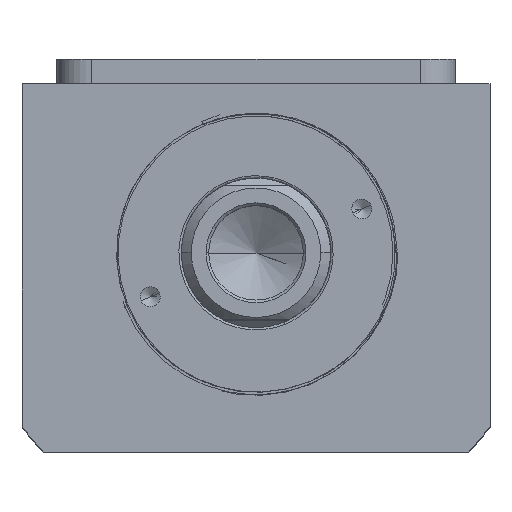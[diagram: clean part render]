
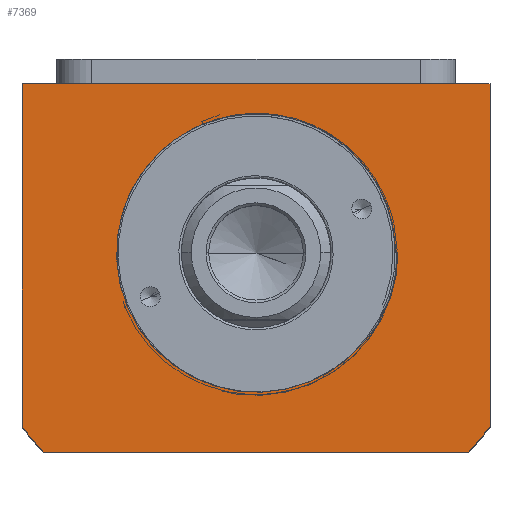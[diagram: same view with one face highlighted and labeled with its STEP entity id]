
A CAD part, top view. The second image highlights one B-rep face of the part: STEP entity #7369.
In plain terms, the highlighted planar face has unit normal (0, 0, 1).
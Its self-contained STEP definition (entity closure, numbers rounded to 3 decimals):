
#55 = DIRECTION ( 'NONE',  ( -1., 0., 0. ) ) ;
#139 = CARTESIAN_POINT ( 'NONE',  ( 28.449, -1.419, 55. ) ) ;
#247 = CARTESIAN_POINT ( 'NONE',  ( 11.542, -25.544, 55. ) ) ;
#412 = CARTESIAN_POINT ( 'NONE',  ( 47., 34., 55. ) ) ;
#416 = LINE ( 'NONE', #10349, #4657 ) ;
#422 = DIRECTION ( 'NONE',  ( 0., 0., 1. ) ) ;
#442 = CIRCLE ( 'NONE', #8817, 58.5 ) ;
#524 = VECTOR ( 'NONE', #2663, 1000. ) ;
#584 = CARTESIAN_POINT ( 'NONE',  ( 28.495, 0., 55. ) ) ;
#714 = LINE ( 'NONE', #9486, #9997 ) ;
#748 = ORIENTED_EDGE ( 'NONE', *, *, #7979, .T. ) ;
#1018 = CARTESIAN_POINT ( 'NONE',  ( 27.555, -6.99, 55. ) ) ;
#1055 = CARTESIAN_POINT ( 'NONE',  ( 28.233, -3.538, 55. ) ) ;
#1101 = CARTESIAN_POINT ( 'NONE',  ( 47., 34., 55. ) ) ;
#1131 = CARTESIAN_POINT ( 'NONE',  ( 26.163, -10.961, 55. ) ) ;
#1386 = DIRECTION ( 'NONE',  ( 0., -1., 0. ) ) ;
#1449 = CARTESIAN_POINT ( 'NONE',  ( 10.232, -26.064, 55. ) ) ;
#1453 = EDGE_CURVE ( 'NONE', #3289, #7647, #7954, .T. ) ;
#1801 = ORIENTED_EDGE ( 'NONE', *, *, #1453, .T. ) ;
#1815 = CIRCLE ( 'NONE', #6344, 28. ) ;
#2499 = CARTESIAN_POINT ( 'NONE',  ( 42.688, -40., 55. ) ) ;
#2516 = VECTOR ( 'NONE', #2999, 1000. ) ;
#2663 = DIRECTION ( 'NONE',  ( 1., 0., 0. ) ) ;
#2866 = CARTESIAN_POINT ( 'NONE',  ( 18.129, -21.529, 55. ) ) ;
#2878 = FACE_OUTER_BOUND ( 'NONE', #9366, .T. ) ;
#2948 = CARTESIAN_POINT ( 'NONE',  ( 13.459, -24.624, 55. ) ) ;
#2999 = DIRECTION ( 'NONE',  ( 0., 1., 0. ) ) ;
#3087 = CARTESIAN_POINT ( 'NONE',  ( -42.688, -40., 55. ) ) ;
#3271 = DIRECTION ( 'NONE',  ( 1., 0., 0. ) ) ;
#3289 = VERTEX_POINT ( 'NONE', #3087 ) ;
#3407 = AXIS2_PLACEMENT_3D ( 'NONE', #9375, #422, #10197 ) ;
#3449 = EDGE_CURVE ( 'NONE', #10764, #4905, #4760, .T. ) ;
#3611 = EDGE_CURVE ( 'NONE', #10764, #9533, #4026, .T. ) ;
#3784 = CARTESIAN_POINT ( 'NONE',  ( 24.898, -13.504, 55. ) ) ;
#4026 = B_SPLINE_CURVE_WITH_KNOTS ( 'NONE', 3,
 ( #9121, #10010, #139, #4729, #1055, #5620, #1018, #11042, #1131, #3784, #7331, #6436, #10890, #6468, #8236, #9081, #2866, #9976, #10993, #2948, #10053, #247, #4664, #4689 ),
 .UNSPECIFIED., .F., .F.,
 ( 4, 2, 2, 2, 2, 2, 2, 2, 2, 2, 2, 4 ),
 ( 0., 0.002, 0.004, 0.009, 0.013, 0.017, 0.021, 0.023, 0.026, 0.03, 0.032, 0.034 ),
 .UNSPECIFIED. ) ;
#4071 = FACE_BOUND ( 'NONE', #6699, .T. ) ;
#4466 = ORIENTED_EDGE ( 'NONE', *, *, #4738, .T. ) ;
#4552 = ORIENTED_EDGE ( 'NONE', *, *, #6808, .T. ) ;
#4635 = VERTEX_POINT ( 'NONE', #9975 ) ;
#4657 = VECTOR ( 'NONE', #7771, 1000. ) ;
#4664 = CARTESIAN_POINT ( 'NONE',  ( 10.89, -25.816, 55. ) ) ;
#4689 = CARTESIAN_POINT ( 'NONE',  ( 10.232, -26.064, 55. ) ) ;
#4729 = CARTESIAN_POINT ( 'NONE',  ( 28.323, -2.832, 55. ) ) ;
#4738 = EDGE_CURVE ( 'NONE', #7647, #11577, #442, .T. ) ;
#4760 = LINE ( 'NONE', #7147, #5861 ) ;
#4905 = VERTEX_POINT ( 'NONE', #6995 ) ;
#5205 = CARTESIAN_POINT ( 'NONE',  ( 0., 0., 55. ) ) ;
#5222 = EDGE_CURVE ( 'NONE', #4635, #7610, #714, .T. ) ;
#5301 = CIRCLE ( 'NONE', #7096, 58.5 ) ;
#5538 = DIRECTION ( 'NONE',  ( 1., 0., 0. ) ) ;
#5620 = CARTESIAN_POINT ( 'NONE',  ( 27.887, -5.628, 55. ) ) ;
#5649 = ORIENTED_EDGE ( 'NONE', *, *, #7474, .T. ) ;
#5652 = CARTESIAN_POINT ( 'NONE',  ( 0., 0., 55. ) ) ;
#5849 = ORIENTED_EDGE ( 'NONE', *, *, #3611, .T. ) ;
#5861 = VECTOR ( 'NONE', #55, 1000. ) ;
#6108 = DIRECTION ( 'NONE',  ( 0., 0., -1. ) ) ;
#6344 = AXIS2_PLACEMENT_3D ( 'NONE', #5205, #6108, #10475 ) ;
#6436 = CARTESIAN_POINT ( 'NONE',  ( 22.571, -17.007, 55. ) ) ;
#6468 = CARTESIAN_POINT ( 'NONE',  ( 20.224, -19.631, 55. ) ) ;
#6699 = EDGE_LOOP ( 'NONE', ( #8209, #5849, #4552 ) ) ;
#6808 = EDGE_CURVE ( 'NONE', #9533, #4905, #1815, .T. ) ;
#6995 = CARTESIAN_POINT ( 'NONE',  ( 28., 0., 55. ) ) ;
#7096 = AXIS2_PLACEMENT_3D ( 'NONE', #8712, #11391, #3271 ) ;
#7147 = CARTESIAN_POINT ( 'NONE',  ( 0., 0., 55. ) ) ;
#7295 = LINE ( 'NONE', #412, #2516 ) ;
#7331 = CARTESIAN_POINT ( 'NONE',  ( 24.178, -14.712, 55. ) ) ;
#7369 = ADVANCED_FACE ( 'NONE', ( #4071, #2878 ), #11214, .T. ) ;
#7474 = EDGE_CURVE ( 'NONE', #8425, #4635, #416, .T. ) ;
#7504 = ORIENTED_EDGE ( 'NONE', *, *, #10740, .T. ) ;
#7610 = VERTEX_POINT ( 'NONE', #10423 ) ;
#7647 = VERTEX_POINT ( 'NONE', #11591 ) ;
#7771 = DIRECTION ( 'NONE',  ( -1., 0., 0. ) ) ;
#7954 = LINE ( 'NONE', #2499, #524 ) ;
#7979 = EDGE_CURVE ( 'NONE', #11577, #8425, #7295, .T. ) ;
#8209 = ORIENTED_EDGE ( 'NONE', *, *, #3449, .F. ) ;
#8236 = CARTESIAN_POINT ( 'NONE',  ( 19.714, -20.129, 55. ) ) ;
#8425 = VERTEX_POINT ( 'NONE', #1101 ) ;
#8712 = CARTESIAN_POINT ( 'NONE',  ( 0., 0., 55. ) ) ;
#8755 = CARTESIAN_POINT ( 'NONE',  ( 47., -34.832, 55. ) ) ;
#8817 = AXIS2_PLACEMENT_3D ( 'NONE', #5652, #10960, #5538 ) ;
#9081 = CARTESIAN_POINT ( 'NONE',  ( 18.667, -21.077, 55. ) ) ;
#9121 = CARTESIAN_POINT ( 'NONE',  ( 28.495, 0., 55. ) ) ;
#9366 = EDGE_LOOP ( 'NONE', ( #5649, #11138, #7504, #1801, #4466, #748 ) ) ;
#9375 = CARTESIAN_POINT ( 'NONE',  ( 0., 0., 55. ) ) ;
#9486 = CARTESIAN_POINT ( 'NONE',  ( -47., -34.832, 55. ) ) ;
#9533 = VERTEX_POINT ( 'NONE', #1449 ) ;
#9975 = CARTESIAN_POINT ( 'NONE',  ( -47., 34., 55. ) ) ;
#9976 = CARTESIAN_POINT ( 'NONE',  ( 16.467, -22.819, 55. ) ) ;
#9997 = VECTOR ( 'NONE', #1386, 1000. ) ;
#10010 = CARTESIAN_POINT ( 'NONE',  ( 28.485, -0.71, 55. ) ) ;
#10053 = CARTESIAN_POINT ( 'NONE',  ( 12.831, -24.945, 55. ) ) ;
#10197 = DIRECTION ( 'NONE',  ( 1., 0., 0. ) ) ;
#10349 = CARTESIAN_POINT ( 'NONE',  ( -47., 34., 55. ) ) ;
#10423 = CARTESIAN_POINT ( 'NONE',  ( -47., -34.832, 55. ) ) ;
#10475 = DIRECTION ( 'NONE',  ( 1., 0., 0. ) ) ;
#10740 = EDGE_CURVE ( 'NONE', #7610, #3289, #5301, .T. ) ;
#10764 = VERTEX_POINT ( 'NONE', #584 ) ;
#10890 = CARTESIAN_POINT ( 'NONE',  ( 21.684, -18.094, 55. ) ) ;
#10960 = DIRECTION ( 'NONE',  ( 0., 0., 1. ) ) ;
#10993 = CARTESIAN_POINT ( 'NONE',  ( 15.3, -23.593, 55. ) ) ;
#11042 = CARTESIAN_POINT ( 'NONE',  ( 26.694, -9.657, 55. ) ) ;
#11138 = ORIENTED_EDGE ( 'NONE', *, *, #5222, .T. ) ;
#11214 = PLANE ( 'NONE',  #3407 ) ;
#11391 = DIRECTION ( 'NONE',  ( 0., 0., 1. ) ) ;
#11577 = VERTEX_POINT ( 'NONE', #8755 ) ;
#11591 = CARTESIAN_POINT ( 'NONE',  ( 42.688, -40., 55. ) ) ;
